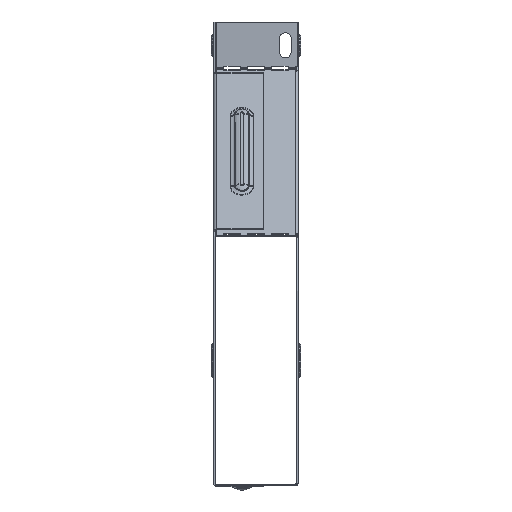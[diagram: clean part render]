
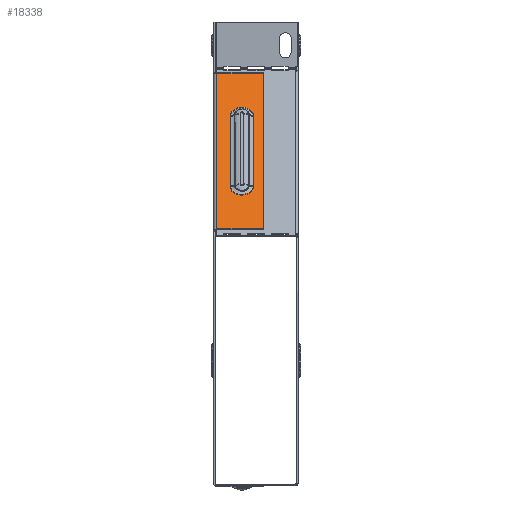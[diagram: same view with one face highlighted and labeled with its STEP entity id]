
A CAD part, left-side view. The second image highlights one B-rep face of the part: STEP entity #18338.
In plain terms, the highlighted planar face has unit normal (-0.707, 0, 0.707).
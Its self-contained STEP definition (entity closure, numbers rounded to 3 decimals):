
#515 = VECTOR ( 'NONE', #4925, 1000. ) ;
#531 = AXIS2_PLACEMENT_3D ( 'NONE', #1385, #15871, #6389 ) ;
#813 = LINE ( 'NONE', #6756, #2085 ) ;
#1385 = CARTESIAN_POINT ( 'NONE',  ( -147.152, 33.9, 179.725 ) ) ;
#1901 = DIRECTION ( 'NONE',  ( 0., -1., 0. ) ) ;
#2067 = DIRECTION ( 'NONE',  ( 0.707, 0., -0.707 ) ) ;
#2085 = VECTOR ( 'NONE', #1901, 1000. ) ;
#2167 = VERTEX_POINT ( 'NONE', #14429 ) ;
#2284 = FACE_OUTER_BOUND ( 'NONE', #9750, .T. ) ;
#2425 = ORIENTED_EDGE ( 'NONE', *, *, #17520, .F. ) ;
#2716 = CIRCLE ( 'NONE', #11698, 6.917 ) ;
#2883 = CARTESIAN_POINT ( 'NONE',  ( -172.917, 51.899, 153.96 ) ) ;
#3018 = CARTESIAN_POINT ( 'NONE',  ( -104.725, 40.817, 222.152 ) ) ;
#3038 = CARTESIAN_POINT ( 'NONE',  ( -78.96, 49., 247.917 ) ) ;
#3748 = PLANE ( 'NONE',  #14467 ) ;
#3768 = VERTEX_POINT ( 'NONE', #5191 ) ;
#3769 = ORIENTED_EDGE ( 'NONE', *, *, #11585, .F. ) ;
#4359 = DIRECTION ( 'NONE',  ( 0.707, 0., 0.707 ) ) ;
#4464 = VERTEX_POINT ( 'NONE', #3038 ) ;
#4718 = CARTESIAN_POINT ( 'NONE',  ( -104.725, 40.817, 222.152 ) ) ;
#4925 = DIRECTION ( 'NONE',  ( 0.707, 0., 0.707 ) ) ;
#5191 = CARTESIAN_POINT ( 'NONE',  ( -147.152, 26.983, 179.725 ) ) ;
#5273 = ORIENTED_EDGE ( 'NONE', *, *, #9597, .F. ) ;
#5349 = EDGE_CURVE ( 'NONE', #7568, #12220, #2716, .T. ) ;
#5799 = EDGE_CURVE ( 'NONE', #13011, #7568, #12990, .T. ) ;
#6389 = DIRECTION ( 'NONE',  ( -0.5, 0.707, -0.5 ) ) ;
#6756 = CARTESIAN_POINT ( 'NONE',  ( -78.96, 50.8, 247.917 ) ) ;
#7568 = VERTEX_POINT ( 'NONE', #4718 ) ;
#7861 = CARTESIAN_POINT ( 'NONE',  ( -104.725, 26.983, 222.152 ) ) ;
#8155 = VECTOR ( 'NONE', #4359, 1000. ) ;
#8185 = CARTESIAN_POINT ( 'NONE',  ( -104.725, 33.9, 222.152 ) ) ;
#8453 = DIRECTION ( 'NONE',  ( -0.707, 0., -0.707 ) ) ;
#8829 = VERTEX_POINT ( 'NONE', #18437 ) ;
#9229 = VECTOR ( 'NONE', #13197, 1000. ) ;
#9597 = EDGE_CURVE ( 'NONE', #4464, #8829, #813, .T. ) ;
#9612 = LINE ( 'NONE', #17777, #515 ) ;
#9750 = EDGE_LOOP ( 'NONE', ( #3769, #12282, #5273, #2425 ) ) ;
#9818 = DIRECTION ( 'NONE',  ( 0.707, 0., -0.707 ) ) ;
#9975 = ORIENTED_EDGE ( 'NONE', *, *, #14039, .T. ) ;
#10106 = CARTESIAN_POINT ( 'NONE',  ( -163.438, 20.8, 163.438 ) ) ;
#10279 = CARTESIAN_POINT ( 'NONE',  ( -147.152, 40.817, 179.725 ) ) ;
#10834 = EDGE_CURVE ( 'NONE', #3768, #13011, #15503, .T. ) ;
#11061 = DIRECTION ( 'NONE',  ( 0., 1., 0. ) ) ;
#11118 = EDGE_LOOP ( 'NONE', ( #12623, #20177, #9975, #11367 ) ) ;
#11367 = ORIENTED_EDGE ( 'NONE', *, *, #10834, .T. ) ;
#11585 = EDGE_CURVE ( 'NONE', #2167, #14916, #20019, .T. ) ;
#11636 = CARTESIAN_POINT ( 'NONE',  ( -172.917, 49., 153.96 ) ) ;
#11698 = AXIS2_PLACEMENT_3D ( 'NONE', #8185, #9818, #16803 ) ;
#12056 = CARTESIAN_POINT ( 'NONE',  ( -104.725, 26.983, 222.152 ) ) ;
#12220 = VERTEX_POINT ( 'NONE', #7861 ) ;
#12282 = ORIENTED_EDGE ( 'NONE', *, *, #19709, .T. ) ;
#12623 = ORIENTED_EDGE ( 'NONE', *, *, #5799, .T. ) ;
#12990 = LINE ( 'NONE', #3018, #8155 ) ;
#13011 = VERTEX_POINT ( 'NONE', #10279 ) ;
#13197 = DIRECTION ( 'NONE',  ( 0.707, 0., 0.707 ) ) ;
#13306 = VECTOR ( 'NONE', #13630, 1000. ) ;
#13630 = DIRECTION ( 'NONE',  ( -0.707, 0., -0.707 ) ) ;
#14039 = EDGE_CURVE ( 'NONE', #12220, #3768, #18314, .T. ) ;
#14429 = CARTESIAN_POINT ( 'NONE',  ( -172.917, 20.8, 153.96 ) ) ;
#14467 = AXIS2_PLACEMENT_3D ( 'NONE', #14871, #2067, #8453 ) ;
#14871 = CARTESIAN_POINT ( 'NONE',  ( -163.438, 50.8, 163.438 ) ) ;
#14916 = VERTEX_POINT ( 'NONE', #11636 ) ;
#15503 = CIRCLE ( 'NONE', #531, 6.917 ) ;
#15754 = VECTOR ( 'NONE', #11061, 1000. ) ;
#15871 = DIRECTION ( 'NONE',  ( 0.707, 0., -0.707 ) ) ;
#16803 = DIRECTION ( 'NONE',  ( -0.5, 0.707, -0.5 ) ) ;
#17520 = EDGE_CURVE ( 'NONE', #14916, #4464, #9612, .T. ) ;
#17777 = CARTESIAN_POINT ( 'NONE',  ( -76.838, 49., 250.038 ) ) ;
#17842 = LINE ( 'NONE', #10106, #9229 ) ;
#18314 = LINE ( 'NONE', #12056, #13306 ) ;
#18338 = ADVANCED_FACE ( 'NONE', ( #19179, #2284 ), #3748, .F. ) ;
#18437 = CARTESIAN_POINT ( 'NONE',  ( -78.96, 20.8, 247.917 ) ) ;
#19179 = FACE_BOUND ( 'NONE', #11118, .T. ) ;
#19709 = EDGE_CURVE ( 'NONE', #2167, #8829, #17842, .T. ) ;
#20019 = LINE ( 'NONE', #2883, #15754 ) ;
#20177 = ORIENTED_EDGE ( 'NONE', *, *, #5349, .T. ) ;
